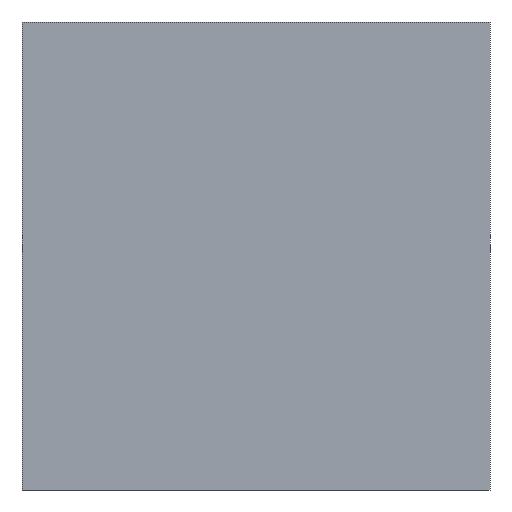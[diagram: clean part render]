
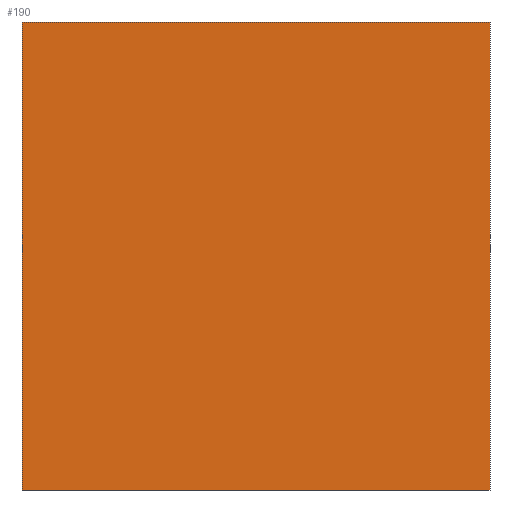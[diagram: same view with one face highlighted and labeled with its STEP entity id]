
A CAD part, front view. The second image highlights one B-rep face of the part: STEP entity #190.
In plain terms, the highlighted planar face has unit normal (0, -1, 0).
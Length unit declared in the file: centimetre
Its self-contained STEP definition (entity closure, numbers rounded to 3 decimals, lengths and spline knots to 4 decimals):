
#22 = EDGE_CURVE ( 'NONE', #26, #41, #779, .T. ) ;
#26 = VERTEX_POINT ( 'NONE', #86 ) ;
#36 = ORIENTED_EDGE ( 'NONE', *, *, #117, .F. ) ;
#41 = VERTEX_POINT ( 'NONE', #666 ) ;
#43 = ORIENTED_EDGE ( 'NONE', *, *, #534, .T. ) ;
#86 = CARTESIAN_POINT ( 'NONE',  ( 1000., 0., 1000. ) ) ;
#117 = EDGE_CURVE ( 'NONE', #665, #26, #550, .T. ) ;
#126 = LINE ( 'NONE', #433, #484 ) ;
#132 = FACE_OUTER_BOUND ( 'NONE', #644, .T. ) ;
#190 = ADVANCED_FACE ( 'NONE', ( #132 ), #386, .F. ) ;
#191 = DIRECTION ( 'NONE',  ( 0., 0., -1. ) ) ;
#224 = CARTESIAN_POINT ( 'NONE',  ( 1000., 0., 1000. ) ) ;
#269 = EDGE_CURVE ( 'NONE', #665, #445, #698, .T. ) ;
#321 = CARTESIAN_POINT ( 'NONE',  ( 0., 0., 1000. ) ) ;
#327 = CARTESIAN_POINT ( 'NONE',  ( 0., 0., 1000. ) ) ;
#341 = VECTOR ( 'NONE', #702, 100. ) ;
#343 = VECTOR ( 'NONE', #191, 100. ) ;
#361 = DIRECTION ( 'NONE',  ( 1., 0., 0. ) ) ;
#386 = PLANE ( 'NONE',  #718 ) ;
#433 = CARTESIAN_POINT ( 'NONE',  ( 0., 0., 0. ) ) ;
#445 = VERTEX_POINT ( 'NONE', #798 ) ;
#484 = VECTOR ( 'NONE', #689, 100. ) ;
#496 = DIRECTION ( 'NONE',  ( 0., 0., 1. ) ) ;
#534 = EDGE_CURVE ( 'NONE', #445, #41, #126, .T. ) ;
#550 = LINE ( 'NONE', #607, #793 ) ;
#607 = CARTESIAN_POINT ( 'NONE',  ( 0., 0., 1000. ) ) ;
#631 = DIRECTION ( 'NONE',  ( 0., 1., 0. ) ) ;
#644 = EDGE_LOOP ( 'NONE', ( #43, #764, #36, #719 ) ) ;
#665 = VERTEX_POINT ( 'NONE', #763 ) ;
#666 = CARTESIAN_POINT ( 'NONE',  ( 1000., 0., 0. ) ) ;
#689 = DIRECTION ( 'NONE',  ( 1., 0., 0. ) ) ;
#698 = LINE ( 'NONE', #321, #343 ) ;
#702 = DIRECTION ( 'NONE',  ( 0., 0., -1. ) ) ;
#718 = AXIS2_PLACEMENT_3D ( 'NONE', #327, #631, #496 ) ;
#719 = ORIENTED_EDGE ( 'NONE', *, *, #269, .T. ) ;
#763 = CARTESIAN_POINT ( 'NONE',  ( 0., 0., 1000. ) ) ;
#764 = ORIENTED_EDGE ( 'NONE', *, *, #22, .F. ) ;
#779 = LINE ( 'NONE', #224, #341 ) ;
#793 = VECTOR ( 'NONE', #361, 100. ) ;
#798 = CARTESIAN_POINT ( 'NONE',  ( 0., 0., 0. ) ) ;
